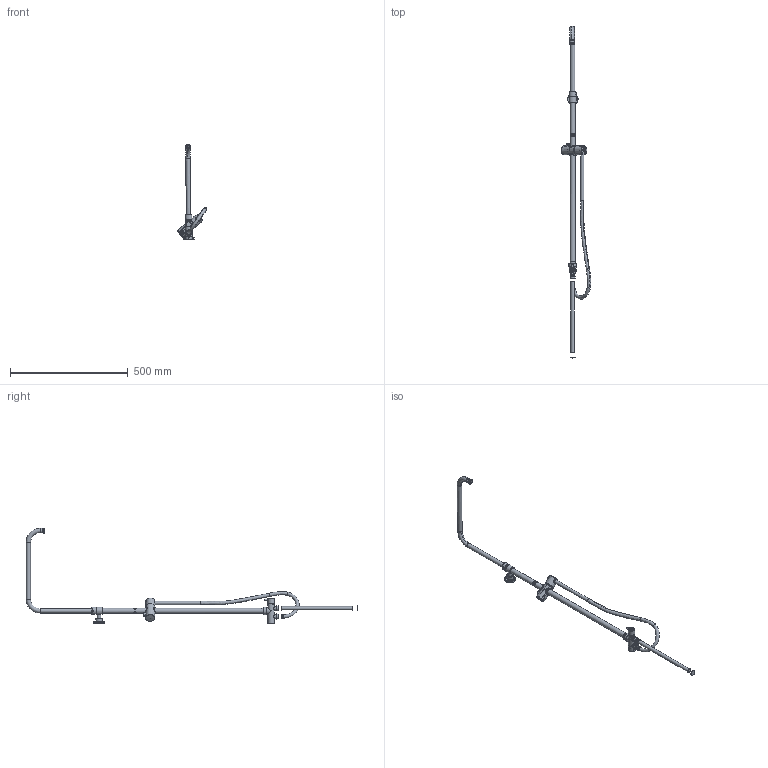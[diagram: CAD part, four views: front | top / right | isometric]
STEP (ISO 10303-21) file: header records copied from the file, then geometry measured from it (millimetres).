
FILE_DESCRIPTION(/* description */ (''),/* implementation_level */ '2;1');
FILE_NAME(/* name */ 'D:\Omnires\Export_Omnires\rys_step\5901867772176_stp.stp',/* time_stamp */ '2020-07-27T13:54:44+02:00',/* author */ (''),/* organization */ (''),/* preprocessor_version */ 'ST-DEVELOPER v18.1',/* originating_system */ 'Autodesk Inventor 2020',/* authorisation */ '');
FILE_SCHEMA (('AUTOMOTIVE_DESIGN { 1 0 10303 214 3 1 1 }'));
Length unit declared in the file: millimetre
Products named in the file (1): 5901867772176_dwg
Bounding box: 124.99 x 1410.4 x 406.54 mm (x, y, z)
Surface area: 377409.4 mm2 (no closed solid volume)
Topology: 0 solids, 34 shells, 1458 faces, 3968 edges, 2697 vertices
Faces by surface type: plane 614, cylinder 390, bspline 185, cone 149, torus 107, sphere 13
Full cylindrical faces by diameter (mm): 1.8 x18, 2 x2, 2.5 x2, 3.2 x3, 3.3 x4, 4 x15, 4.2 x3, 4.274 x1, 4.7 x1, 5 x1, 6 x1, 6.3 x1, 6.5 x1, 7.5 x1, 8 x3, 8.2 x1, 8.5 x3, 8.96 x1, 9 x2, 9.9 x1, 10.642 x1, 11 x1, 12.2 x1, 12.5 x3, 13 x11, 13.5 x1, 13.8 x2, 14 x17, 14.5 x1, 15 x5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
Entity records: 88847 total; most frequent: CARTESIAN_POINT 51264, ORIENTED_EDGE 7912, DIRECTION 7206, EDGE_CURVE 3956, AXIS2_PLACEMENT_3D 2894, VERTEX_POINT 2697, EDGE_LOOP 1649, CIRCLE 1559
